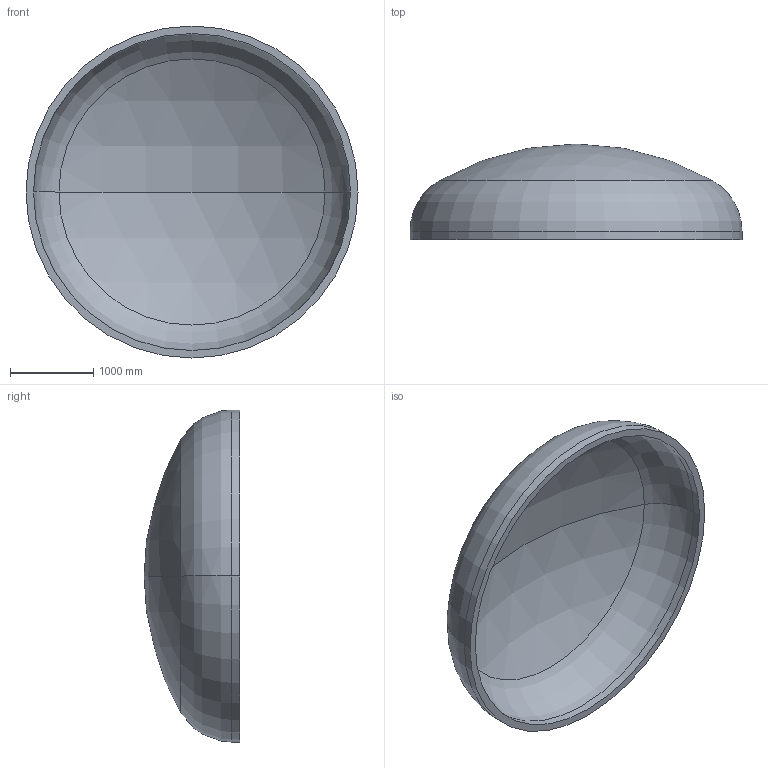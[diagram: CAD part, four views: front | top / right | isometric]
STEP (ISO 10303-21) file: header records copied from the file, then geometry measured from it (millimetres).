
FILE_DESCRIPTION (( 'STEP AP203' ), '1' );
FILE_NAME ('DIN 28013 Korbbogenform_-_Boden DIN 28013 - 4000 x 100 - I - s=90.step', '2016-07-01T22:44:49', ( '' ), ( '' ), 'SwSTEP 2.0', 'SolidWorks 2013', '' );
FILE_SCHEMA (( 'CONFIG_CONTROL_DESIGN' ));
Length unit declared in the file: millimetre
Products named in the file (1): DIN 28013 Korbbogenform_-_Boden DIN 28013 - 4000 x 100 - I - s=90
Bounding box: 4000 x 1152.77 x 4000 mm (x, y, z)
Volume: 1630806390.3 mm3; surface area: 37362620.3 mm2
Topology: 1 solids, 1 shells, 13 faces, 24 edges, 14 vertices
Faces by surface type: torus 4, cylinder 4, sphere 4, plane 1
Entity records: 407 total; most frequent: DIRECTION 72, CARTESIAN_POINT 52, ORIENTED_EDGE 48, AXIS2_PLACEMENT_3D 34, EDGE_CURVE 24, CIRCLE 20, VERTEX_POINT 14, EDGE_LOOP 14
